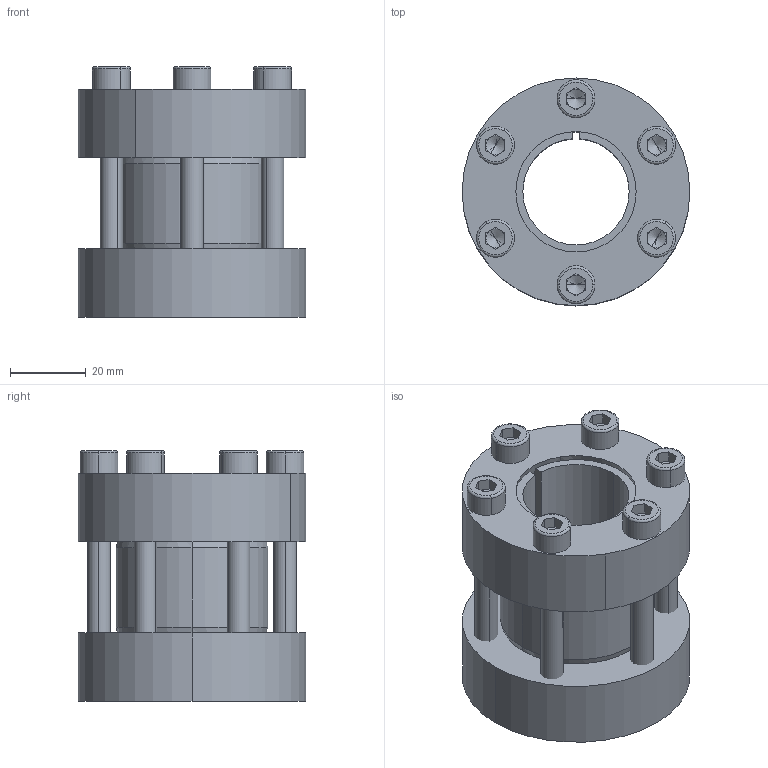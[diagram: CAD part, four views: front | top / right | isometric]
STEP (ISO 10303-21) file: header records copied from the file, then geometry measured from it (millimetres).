
FILE_DESCRIPTION (( 'STEP AP214' ), '1' );
FILE_NAME ('CONEX-M-28x60.step', '2013-04-06T13:25:17', ( 'Pc' ), ( '' ), 'SwSTEP 2.0', 'SolidWorks 2013', '' );
FILE_SCHEMA (( 'AUTOMOTIVE_DESIGN' ));
Length unit declared in the file: millimetre
Products named in the file (1): CONEX-M-28x60
Bounding box: 60 x 60 x 66.02 mm (x, y, z)
Volume: 99236.1 mm3; surface area: 42647 mm2
Topology: 9 solids, 9 shells, 214 faces, 482 edges, 286 vertices
Faces by surface type: plane 98, cylinder 58, cone 34, torus 24
Entity records: 8399 total; most frequent: DIRECTION 1122, CARTESIAN_POINT 998, ORIENTED_EDGE 940, EDGE_CURVE 470, AXIS2_PLACEMENT_3D 441, VERTEX_POINT 286, EDGE_LOOP 254, LINE 240
